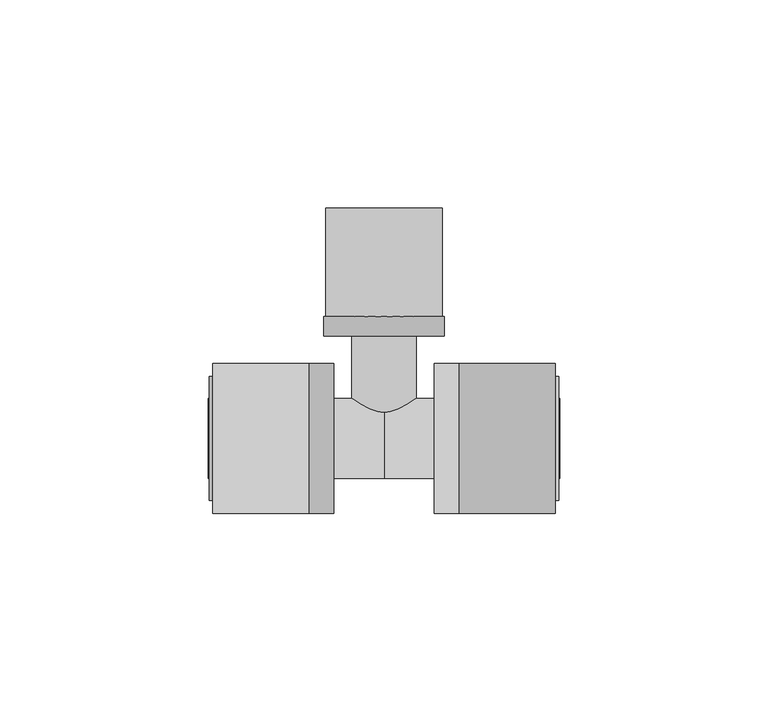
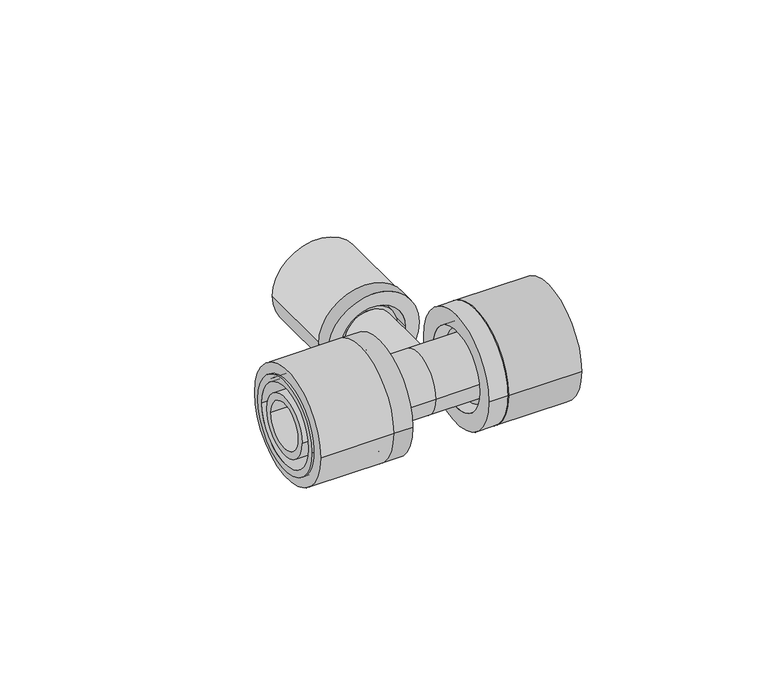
"""IFC4 building model written with IfcOpenShell, lengths in millimetres: pipe fitting geometry, FASTLOC_T-piece_EX+ : FSL T-Piece EX+ AT."""

from ifc_helpers import new_model, si_unit, point, frame, origin, origin_2d, place, context, project, spatial, polyline, circle_curve, trimmed, segment, composite_curve, outline, extrude, source, transform, mapped, element, save
from ifc_brep_helpers import plane_surface, cylinder_surface, revolved_surface, advanced_brep


def pipe_fitting_d1a48cca(model_context):
    return source(origin(), model_context, "Body", "SolidModel", [
        extrude(outline(composite_curve([segment(trimmed(circle_curve(origin_2d(), 18.0), [point((-18.0, 0.0))], [point((18.0, 0.0))], False, "CARTESIAN"), True, "CONTINUOUS"), segment(trimmed(circle_curve(origin_2d(), 18.0), [point((18.0, 0.0))], [point((-18.0, 0.0))], False, "CARTESIAN"), True, "CONTINUOUS")], self_intersect=False), holes=[composite_curve([segment(trimmed(circle_curve(origin_2d(), 13.5), [point((-13.5, 0.0))], [point((13.5, 0.0))], True, "CARTESIAN"), True, "CONTINUOUS"), segment(trimmed(circle_curve(origin_2d(), 13.5), [point((13.5, 0.0))], [point((-13.5, 0.0))], True, "CARTESIAN"), True, "CONTINUOUS")], self_intersect=False)]), frame((18.1, 0.0, 0.0), z_axis=(1.0, 0.0, 0.0), x_axis=(0.0, 1.0, 0.0)), (0.0, 0.0, 1.0), 23.0),
        advanced_brep(
        [(18.1, 18.0, 0.0), (18.1, -18.0, 0.0), (12.1, -18.0, 0.0), (12.1, 18.0, 0.0), (41.9, 14.85, 0.0), (41.9, -14.85, 0.0), (18.1, -14.85, 0.0), (18.1, 14.85, 0.0), (12.1, 12.65, 0.0), (12.1, -12.65, 0.0), (41.9, -12.65, 0.0), (41.9, 12.65, 0.0)],
        [
            (0, 1, circle_curve(frame((18.1, 0.0, 0.0), z_axis=(-1.0, 0.0, 0.0), x_axis=(0.0, -1.0, 0.0)), 18.0)),
            (1, 2),
            (2, 3, circle_curve(frame((12.1, 0.0, 0.0), z_axis=(1.0, 0.0, 0.0), x_axis=(0.0, -1.0, 0.0)), 18.0)),
            (3, 0),
            (4, 5, circle_curve(frame((41.9, 0.0, 0.0), z_axis=(-1.0, 0.0, 0.0), x_axis=(0.0, -1.0, 0.0)), 14.85)),
            (5, 6),
            (6, 7, circle_curve(frame((18.1, 0.0, 0.0), z_axis=(1.0, 0.0, 0.0), x_axis=(0.0, -1.0, 0.0)), 14.85)),
            (7, 4),
            (8, 9, circle_curve(frame((12.1, 0.0, 0.0), z_axis=(-1.0, 0.0, 0.0), x_axis=(0.0, -1.0, 0.0)), 12.65)),
            (9, 10),
            (10, 11, circle_curve(frame((41.9, 0.0, 0.0), z_axis=(1.0, 0.0, 0.0), x_axis=(0.0, -1.0, 0.0)), 12.65)),
            (11, 8),
            (1, 0, circle_curve(frame((18.1, 0.0, 0.0), z_axis=(-1.0, 0.0, 0.0), x_axis=(0.0, 1.0, 0.0)), 18.0)),
            (3, 2, circle_curve(frame((12.1, 0.0, 0.0), z_axis=(1.0, 0.0, 0.0), x_axis=(0.0, 1.0, 0.0)), 18.0)),
            (6, 7, circle_curve(frame((18.1, 0.0, 0.0), z_axis=(-1.0, 0.0, 0.0), x_axis=(0.0, 1.0, 0.0)), 14.85)),
            (5, 4, circle_curve(frame((41.9, 0.0, 0.0), z_axis=(-1.0, 0.0, 0.0), x_axis=(0.0, 1.0, 0.0)), 14.85)),
            (10, 11, circle_curve(frame((41.9, 0.0, 0.0), z_axis=(-1.0, 0.0, 0.0), x_axis=(0.0, 1.0, 0.0)), 12.65)),
            (9, 8, circle_curve(frame((12.1, 0.0, 0.0), z_axis=(-1.0, 0.0, 0.0), x_axis=(0.0, 1.0, 0.0)), 12.65)),
        ],
        [
            cylinder_surface(frame((12.1, 0.0, 0.0), z_axis=(1.0, 0.0, 0.0), x_axis=(0.0, -1.0, 0.0)), 18.0),
            cylinder_surface(frame((12.1, 0.0, 0.0), z_axis=(1.0, 0.0, 0.0), x_axis=(0.0, -1.0, 0.0)), 14.85),
            revolved_surface(polyline([(41.9, -12.65, 0.0), (12.1, -12.65, 0.0)]), (12.1, 0.0, 0.0), (1.0, 0.0, 0.0)),
            cylinder_surface(frame((12.1, 0.0, 0.0), z_axis=(1.0, 0.0, 0.0), x_axis=(0.0, 1.0, 0.0)), 18.0),
            plane_surface(frame((18.1, 0.0, 0.0), z_axis=(1.0, 0.0, 0.0), x_axis=(0.0, 1.0, 0.0))),
            cylinder_surface(frame((12.1, 0.0, 0.0), z_axis=(1.0, 0.0, 0.0), x_axis=(0.0, 1.0, 0.0)), 14.85),
            plane_surface(frame((41.9, 0.0, 0.0), z_axis=(1.0, 0.0, 0.0), x_axis=(0.0, 1.0, 0.0))),
            revolved_surface(polyline([(41.9, 12.65, 0.0), (12.1, 12.65, 0.0)]), (12.1, 0.0, 0.0), (1.0, 0.0, 0.0)),
            plane_surface(frame((12.1, 0.0, 0.0), z_axis=(-1.0, 0.0, 0.0), x_axis=(0.0, 1.0, 0.0))),
        ],
        [
            (0, [[1, 2, 3, 4]]),
            (1, [[5, 6, 7, 8]]),
            (2, [[9, 10, 11, 12]]),
            (3, [[13, -4, 14, -2]]),
            (4, [[-13, -1], [15, -7]]),
            (5, [[16, -8, -15, -6]]),
            (6, [[-16, -5], [17, -11]]),
            (7, [[18, -12, -17, -10]]),
            (8, [[-14, -3], [-18, -9]]),
        ],
    ),
        extrude(outline(composite_curve([segment(trimmed(circle_curve(origin_2d(), 18.0), [point((18.0, 0.0))], [point((-18.0, 0.0))], False, "CARTESIAN"), True, "CONTINUOUS"), segment(trimmed(circle_curve(origin_2d(), 18.0), [point((-18.0, 0.0))], [point((18.0, 0.0))], False, "CARTESIAN"), True, "CONTINUOUS")], self_intersect=False), holes=[composite_curve([segment(trimmed(circle_curve(origin_2d(), 13.5), [point((13.5, 0.0))], [point((-13.5, 0.0))], True, "CARTESIAN"), True, "CONTINUOUS"), segment(trimmed(circle_curve(origin_2d(), 13.5), [point((-13.5, 0.0))], [point((13.5, 0.0))], True, "CARTESIAN"), True, "CONTINUOUS")], self_intersect=False)]), frame((-41.1, 0.0, 0.0), z_axis=(1.0, 0.0, 0.0), x_axis=(0.0, 1.0, 0.0)), (0.0, 0.0, 1.0), 23.0),
        advanced_brep(
        [(-18.1, -18.0, 0.0), (-18.1, 18.0, 0.0), (-12.1, 18.0, 0.0), (-12.1, -18.0, 0.0), (-41.9, -14.85, 0.0), (-41.9, 14.85, 0.0), (-18.1, 14.85, 0.0), (-18.1, -14.85, 0.0), (-12.1, -12.65, 0.0), (-12.1, 12.65, 0.0), (-41.9, 12.65, 0.0), (-41.9, -12.65, 0.0)],
        [
            (0, 1, circle_curve(frame((-18.1, 0.0, 0.0), z_axis=(1.0, 0.0, 0.0), x_axis=(0.0, 1.0, 0.0)), 18.0)),
            (1, 2),
            (2, 3, circle_curve(frame((-12.1, 0.0, 0.0), z_axis=(-1.0, 0.0, 0.0), x_axis=(0.0, 1.0, 0.0)), 18.0)),
            (3, 0),
            (4, 5, circle_curve(frame((-41.9, 0.0, 0.0), z_axis=(1.0, 0.0, 0.0), x_axis=(0.0, 1.0, 0.0)), 14.85)),
            (5, 6),
            (6, 7, circle_curve(frame((-18.1, 0.0, 0.0), z_axis=(-1.0, 0.0, 0.0), x_axis=(0.0, 1.0, 0.0)), 14.85)),
            (7, 4),
            (8, 9, circle_curve(frame((-12.1, 0.0, 0.0), z_axis=(1.0, 0.0, 0.0), x_axis=(0.0, 1.0, 0.0)), 12.65)),
            (9, 10),
            (10, 11, circle_curve(frame((-41.9, 0.0, 0.0), z_axis=(-1.0, 0.0, 0.0), x_axis=(0.0, 1.0, 0.0)), 12.65)),
            (11, 8),
            (1, 0, circle_curve(frame((-18.1, 0.0, 0.0), z_axis=(1.0, 0.0, 0.0), x_axis=(0.0, -1.0, 0.0)), 18.0)),
            (3, 2, circle_curve(frame((-12.1, 0.0, 0.0), z_axis=(-1.0, 0.0, 0.0), x_axis=(0.0, -1.0, 0.0)), 18.0)),
            (6, 7, circle_curve(frame((-18.1, 0.0, 0.0), z_axis=(1.0, 0.0, 0.0), x_axis=(0.0, -1.0, 0.0)), 14.85)),
            (5, 4, circle_curve(frame((-41.9, 0.0, 0.0), z_axis=(1.0, 0.0, 0.0), x_axis=(0.0, -1.0, 0.0)), 14.85)),
            (10, 11, circle_curve(frame((-41.9, 0.0, 0.0), z_axis=(1.0, 0.0, 0.0), x_axis=(0.0, -1.0, 0.0)), 12.65)),
            (9, 8, circle_curve(frame((-12.1, 0.0, 0.0), z_axis=(1.0, 0.0, 0.0), x_axis=(0.0, -1.0, 0.0)), 12.65)),
        ],
        [
            cylinder_surface(frame((-12.1, 0.0, 0.0), z_axis=(-1.0, 0.0, 0.0), x_axis=(0.0, 1.0, 0.0)), 18.0),
            cylinder_surface(frame((-12.1, 0.0, 0.0), z_axis=(-1.0, 0.0, 0.0), x_axis=(0.0, 1.0, 0.0)), 14.85),
            revolved_surface(polyline([(-41.9, 12.65, 0.0), (-12.1, 12.65, 0.0)]), (-12.1, 0.0, 0.0), (-1.0, 0.0, 0.0)),
            cylinder_surface(frame((-12.1, 0.0, 0.0), z_axis=(-1.0, 0.0, 0.0), x_axis=(0.0, -1.0, 0.0)), 18.0),
            plane_surface(frame((-18.1, 0.0, 0.0), z_axis=(-1.0, 0.0, 0.0), x_axis=(0.0, -1.0, 0.0))),
            cylinder_surface(frame((-12.1, 0.0, 0.0), z_axis=(-1.0, 0.0, 0.0), x_axis=(0.0, -1.0, 0.0)), 14.85),
            plane_surface(frame((-41.9, 0.0, 0.0), z_axis=(-1.0, 0.0, 0.0), x_axis=(0.0, -1.0, 0.0))),
            revolved_surface(polyline([(-41.9, -12.65, 0.0), (-12.1, -12.65, 0.0)]), (-12.1, 0.0, 0.0), (-1.0, 0.0, 0.0)),
            plane_surface(frame((-12.1, 0.0, 0.0), z_axis=(1.0, 0.0, 0.0), x_axis=(0.0, -1.0, 0.0))),
        ],
        [
            (0, [[1, 2, 3, 4]]),
            (1, [[5, 6, 7, 8]]),
            (2, [[9, 10, 11, 12]]),
            (3, [[13, -4, 14, -2]]),
            (4, [[-13, -1], [15, -7]]),
            (5, [[16, -8, -15, -6]]),
            (6, [[-16, -5], [17, -11]]),
            (7, [[18, -12, -17, -10]]),
            (8, [[-14, -3], [-18, -9]]),
        ],
    ),
        extrude(outline(composite_curve([segment(trimmed(circle_curve(origin_2d(), 14.0), [point((0.0, 14.0))], [point((0.0, -14.0))], False, "CARTESIAN"), True, "CONTINUOUS"), segment(trimmed(circle_curve(origin_2d(), 14.0), [point((0.0, -14.0))], [point((0.0, 14.0))], False, "CARTESIAN"), True, "CONTINUOUS")], self_intersect=False), holes=[composite_curve([segment(trimmed(circle_curve(origin_2d(), 10.7), [point((0.0, 10.7))], [point((0.0, -10.7))], True, "CARTESIAN"), True, "CONTINUOUS"), segment(trimmed(circle_curve(origin_2d(), 10.7), [point((0.0, -10.7))], [point((0.0, 10.7))], True, "CARTESIAN"), True, "CONTINUOUS")], self_intersect=False)]), frame((0.0, 29.2, 0.0), z_axis=(0.0, 1.0, 0.0), x_axis=(0.0, 0.0, 1.0)), (0.0, 0.0, 1.0), 26.0),
        advanced_brep(
        [(-14.5, 29.2, 0.0), (14.5, 29.2, 0.0), (14.5, 24.5, 0.0), (-14.5, 24.5, 0.0), (-11.85, 46.2, 0.0), (11.85, 46.2, 0.0), (11.85, 29.2, 0.0), (-11.85, 29.2, 0.0), (-10.15, 24.5, 0.0), (10.15, 24.5, 0.0), (10.15, 46.2, 0.0), (-10.15, 46.2, 0.0)],
        [
            (0, 1, circle_curve(frame((0.0, 29.2, 0.0), z_axis=(0.0, -1.0, 0.0), x_axis=(1.0, 0.0, 0.0)), 14.5)),
            (1, 2),
            (2, 3, circle_curve(frame((0.0, 24.5, 0.0), z_axis=(0.0, 1.0, 0.0), x_axis=(1.0, 0.0, 0.0)), 14.5)),
            (3, 0),
            (4, 5, circle_curve(frame((0.0, 46.2, 0.0), z_axis=(0.0, -1.0, 0.0), x_axis=(1.0, 0.0, 0.0)), 11.85)),
            (5, 6),
            (6, 7, circle_curve(frame((0.0, 29.2, 0.0), z_axis=(0.0, 1.0, 0.0), x_axis=(1.0, 0.0, 0.0)), 11.85)),
            (7, 4),
            (8, 9, circle_curve(frame((0.0, 24.5, 0.0), z_axis=(0.0, -1.0, 0.0), x_axis=(1.0, 0.0, 0.0)), 10.15)),
            (9, 10),
            (10, 11, circle_curve(frame((0.0, 46.2, 0.0), z_axis=(0.0, 1.0, 0.0), x_axis=(1.0, 0.0, 0.0)), 10.15)),
            (11, 8),
            (1, 0, circle_curve(frame((0.0, 29.2, 0.0), z_axis=(0.0, -1.0, 0.0), x_axis=(-1.0, 0.0, 0.0)), 14.5)),
            (3, 2, circle_curve(frame((0.0, 24.5, 0.0), z_axis=(0.0, 1.0, 0.0), x_axis=(-1.0, 0.0, 0.0)), 14.5)),
            (6, 7, circle_curve(frame((0.0, 29.2, 0.0), z_axis=(0.0, -1.0, 0.0), x_axis=(-1.0, 0.0, 0.0)), 11.85)),
            (5, 4, circle_curve(frame((0.0, 46.2, 0.0), z_axis=(0.0, -1.0, 0.0), x_axis=(-1.0, 0.0, 0.0)), 11.85)),
            (10, 11, circle_curve(frame((0.0, 46.2, 0.0), z_axis=(0.0, -1.0, 0.0), x_axis=(-1.0, 0.0, 0.0)), 10.15)),
            (9, 8, circle_curve(frame((0.0, 24.5, 0.0), z_axis=(0.0, -1.0, 0.0), x_axis=(-1.0, 0.0, 0.0)), 10.15)),
        ],
        [
            cylinder_surface(frame((0.0, 24.5, 0.0), z_axis=(0.0, 1.0, 0.0), x_axis=(1.0, 0.0, 0.0)), 14.5),
            cylinder_surface(frame((0.0, 24.5, 0.0), z_axis=(0.0, 1.0, 0.0), x_axis=(1.0, 0.0, 0.0)), 11.85),
            revolved_surface(polyline([(10.15, 46.2, 0.0), (10.15, 24.5, 0.0)]), (0.0, 24.5, 0.0), (0.0, 1.0, 0.0)),
            cylinder_surface(frame((0.0, 24.5, 0.0), z_axis=(0.0, 1.0, 0.0), x_axis=(-1.0, 0.0, 0.0)), 14.5),
            plane_surface(frame((0.0, 29.2, 0.0), z_axis=(0.0, 1.0, 0.0), x_axis=(-1.0, 0.0, 0.0))),
            cylinder_surface(frame((0.0, 24.5, 0.0), z_axis=(0.0, 1.0, 0.0), x_axis=(-1.0, 0.0, 0.0)), 11.85),
            plane_surface(frame((0.0, 46.2, 0.0), z_axis=(0.0, 1.0, 0.0), x_axis=(-1.0, 0.0, 0.0))),
            revolved_surface(polyline([(-10.15, 46.2, 0.0), (-10.15, 24.5, 0.0)]), (0.0, 24.5, 0.0), (0.0, 1.0, 0.0)),
            plane_surface(frame((0.0, 24.5, 0.0), z_axis=(0.0, -1.0, 0.0), x_axis=(-1.0, 0.0, 0.0))),
        ],
        [
            (0, [[1, 2, 3, 4]]),
            (1, [[5, 6, 7, 8]]),
            (2, [[9, 10, 11, 12]]),
            (3, [[13, -4, 14, -2]]),
            (4, [[-13, -1], [15, -7]]),
            (5, [[16, -8, -15, -6]]),
            (6, [[-16, -5], [17, -11]]),
            (7, [[18, -12, -17, -10]]),
            (8, [[-14, -3], [-18, -9]]),
        ],
    ),
        advanced_brep(
        [(0.0, 9.6, 0.0), (0.0, -9.6, 0.0), (-15.3, -9.6, 0.0), (-15.3, 9.6, 0.0), (15.3, 9.6, 0.0), (15.3, -9.6, 0.0), (18.1, 11.1, 0.0), (18.1, -11.1, 0.0), (15.3, -11.1, 0.0), (15.3, 11.1, 0.0), (42.1, 9.6, 0.0), (42.1, -9.6, 0.0), (18.1, -9.6, 0.0), (18.1, 9.6, 0.0), (-42.1, 7.35, 0.0), (-42.1, -7.35, 0.0), (42.1, -7.35, 0.0), (42.1, 7.35, 0.0), (-18.1, 9.6, 0.0), (-18.1, -9.6, 0.0), (-42.1, -9.6, 0.0), (-42.1, 9.6, 0.0), (-15.3, 11.1, 0.0), (-15.3, -11.1, 0.0), (-18.1, -11.1, 0.0), (-18.1, 11.1, 0.0)],
        [
            (0, 1, circle_curve(frame((0.0, 0.0, 0.0), z_axis=(-1.0, 0.0, 0.0), x_axis=(0.0, -1.0, 0.0)), 9.6)),
            (1, 2),
            (2, 3, circle_curve(frame((-15.3, 0.0, 0.0), z_axis=(1.0, 0.0, 0.0), x_axis=(0.0, -1.0, 0.0)), 9.6)),
            (3, 0),
            (4, 5, circle_curve(frame((15.3, 0.0, 0.0), z_axis=(-1.0, 0.0, 0.0), x_axis=(0.0, -1.0, 0.0)), 9.6)),
            (5, 1),
            (0, 4),
            (6, 7, circle_curve(frame((18.1, 0.0, 0.0), z_axis=(-1.0, 0.0, 0.0), x_axis=(0.0, -1.0, 0.0)), 11.1)),
            (7, 8),
            (8, 9, circle_curve(frame((15.3, 0.0, 0.0), z_axis=(1.0, 0.0, 0.0), x_axis=(0.0, -1.0, 0.0)), 11.1)),
            (9, 6),
            (10, 11, circle_curve(frame((42.1, 0.0, 0.0), z_axis=(-1.0, 0.0, 0.0), x_axis=(0.0, -1.0, 0.0)), 9.6)),
            (11, 12),
            (12, 13, circle_curve(frame((18.1, 0.0, 0.0), z_axis=(1.0, 0.0, 0.0), x_axis=(0.0, -1.0, 0.0)), 9.6)),
            (13, 10),
            (14, 15, circle_curve(frame((-42.1, 0.0, 0.0), z_axis=(-1.0, 0.0, 0.0), x_axis=(0.0, -1.0, 0.0)), 7.35)),
            (15, 16),
            (16, 17, circle_curve(frame((42.1, 0.0, 0.0), z_axis=(1.0, 0.0, 0.0), x_axis=(0.0, -1.0, 0.0)), 7.35)),
            (17, 14),
            (18, 19, circle_curve(frame((-18.1, 0.0, 0.0), z_axis=(-1.0, 0.0, 0.0), x_axis=(0.0, -1.0, 0.0)), 9.6)),
            (19, 20),
            (20, 21, circle_curve(frame((-42.1, 0.0, 0.0), z_axis=(1.0, 0.0, 0.0), x_axis=(0.0, -1.0, 0.0)), 9.6)),
            (21, 18),
            (22, 23, circle_curve(frame((-15.3, 0.0, 0.0), z_axis=(-1.0, 0.0, 0.0), x_axis=(0.0, -1.0, 0.0)), 11.1)),
            (23, 24),
            (24, 25, circle_curve(frame((-18.1, 0.0, 0.0), z_axis=(1.0, 0.0, 0.0), x_axis=(0.0, -1.0, 0.0)), 11.1)),
            (25, 22),
            (22, 23, circle_curve(frame((-15.3, 0.0, 0.0), z_axis=(1.0, 0.0, 0.0), x_axis=(0.0, 1.0, 0.0)), 11.1)),
            (2, 3, circle_curve(frame((-15.3, 0.0, 0.0), z_axis=(-1.0, 0.0, 0.0), x_axis=(0.0, 1.0, 0.0)), 9.6)),
            (1, 0, circle_curve(frame((0.0, 0.0, 0.0), z_axis=(-1.0, 0.0, 0.0), x_axis=(0.0, 1.0, 0.0)), 9.6)),
            (5, 4, circle_curve(frame((15.3, 0.0, 0.0), z_axis=(-1.0, 0.0, 0.0), x_axis=(0.0, 1.0, 0.0)), 9.6)),
            (8, 9, circle_curve(frame((15.3, 0.0, 0.0), z_axis=(-1.0, 0.0, 0.0), x_axis=(0.0, 1.0, 0.0)), 11.1)),
            (7, 6, circle_curve(frame((18.1, 0.0, 0.0), z_axis=(-1.0, 0.0, 0.0), x_axis=(0.0, 1.0, 0.0)), 11.1)),
            (12, 13, circle_curve(frame((18.1, 0.0, 0.0), z_axis=(-1.0, 0.0, 0.0), x_axis=(0.0, 1.0, 0.0)), 9.6)),
            (11, 10, circle_curve(frame((42.1, 0.0, 0.0), z_axis=(-1.0, 0.0, 0.0), x_axis=(0.0, 1.0, 0.0)), 9.6)),
            (16, 17, circle_curve(frame((42.1, 0.0, 0.0), z_axis=(-1.0, 0.0, 0.0), x_axis=(0.0, 1.0, 0.0)), 7.35)),
            (15, 14, circle_curve(frame((-42.1, 0.0, 0.0), z_axis=(-1.0, 0.0, 0.0), x_axis=(0.0, 1.0, 0.0)), 7.35)),
            (20, 21, circle_curve(frame((-42.1, 0.0, 0.0), z_axis=(-1.0, 0.0, 0.0), x_axis=(0.0, 1.0, 0.0)), 9.6)),
            (19, 18, circle_curve(frame((-18.1, 0.0, 0.0), z_axis=(-1.0, 0.0, 0.0), x_axis=(0.0, 1.0, 0.0)), 9.6)),
            (24, 25, circle_curve(frame((-18.1, 0.0, 0.0), z_axis=(-1.0, 0.0, 0.0), x_axis=(0.0, 1.0, 0.0)), 11.1)),
        ],
        [
            cylinder_surface(frame((0.0, 0.0, 0.0), z_axis=(1.0, 0.0, 0.0), x_axis=(0.0, -1.0, 0.0)), 9.6),
            cylinder_surface(frame((0.0, 0.0, 0.0), z_axis=(1.0, 0.0, 0.0), x_axis=(0.0, -1.0, 0.0)), 11.1),
            revolved_surface(polyline([(42.1, -7.35, 0.0), (-42.1, -7.35, 0.0)]), (0.0, 0.0, 0.0), (1.0, 0.0, 0.0)),
            plane_surface(frame((-15.3, 0.0, 0.0), z_axis=(1.0, 0.0, 0.0), x_axis=(0.0, 1.0, 0.0))),
            cylinder_surface(frame((0.0, 0.0, 0.0), z_axis=(1.0, 0.0, 0.0), x_axis=(0.0, 1.0, 0.0)), 9.6),
            plane_surface(frame((15.3, 0.0, 0.0), z_axis=(-1.0, 0.0, 0.0), x_axis=(0.0, 1.0, 0.0))),
            cylinder_surface(frame((0.0, 0.0, 0.0), z_axis=(1.0, 0.0, 0.0), x_axis=(0.0, 1.0, 0.0)), 11.1),
            plane_surface(frame((18.1, 0.0, 0.0), z_axis=(1.0, 0.0, 0.0), x_axis=(0.0, 1.0, 0.0))),
            plane_surface(frame((42.1, 0.0, 0.0), z_axis=(1.0, 0.0, 0.0), x_axis=(0.0, 1.0, 0.0))),
            revolved_surface(polyline([(42.1, 7.35, 0.0), (-42.1, 7.35, 0.0)]), (0.0, 0.0, 0.0), (1.0, 0.0, 0.0)),
            plane_surface(frame((-42.1, 0.0, 0.0), z_axis=(-1.0, 0.0, 0.0), x_axis=(0.0, 1.0, 0.0))),
            plane_surface(frame((-18.1, 0.0, 0.0), z_axis=(-1.0, 0.0, 0.0), x_axis=(0.0, 1.0, 0.0))),
        ],
        [
            (0, [[1, 2, 3, 4]]),
            (0, [[5, 6, -1, 7]]),
            (1, [[8, 9, 10, 11]]),
            (0, [[12, 13, 14, 15]]),
            (2, [[16, 17, 18, 19]]),
            (0, [[20, 21, 22, 23]]),
            (1, [[24, 25, 26, 27]]),
            (3, [[28, -24], [29, -3]]),
            (4, [[30, -4, -29, -2]]),
            (4, [[31, -7, -30, -6]]),
            (5, [[32, -10], [-31, -5]]),
            (6, [[33, -11, -32, -9]]),
            (7, [[-33, -8], [34, -14]]),
            (4, [[35, -15, -34, -13]]),
            (8, [[-35, -12], [36, -18]]),
            (9, [[37, -19, -36, -17]]),
            (10, [[38, -22], [-37, -16]]),
            (4, [[39, -23, -38, -21]]),
            (11, [[40, -26], [-39, -20]]),
            (6, [[-28, -27, -40, -25]]),
        ],
    ),
        advanced_brep(
        [(5.75, 46.6, 0.0), (-5.75, 46.6, 0.0), (-5.75, 0.0, 0.0), (5.75, 0.0, 0.0), (7.75, 0.0, 0.0), (-7.75, 0.0, 0.0), (-7.75, 26.53, 0.0), (7.75, 26.53, 0.0), (8.8, 26.53, 0.0), (-8.8, 26.53, 0.0), (-8.8, 29.2, 0.0), (8.8, 29.2, 0.0), (7.75, 29.2, 0.0), (-7.75, 29.2, 0.0), (-7.75, 46.6, 0.0), (7.75, 46.6, 0.0)],
        [
            (0, 1, circle_curve(frame((0.0, 46.6, 0.0), z_axis=(0.0, 1.0, 0.0), x_axis=(-1.0, 0.0, 0.0)), 5.75)),
            (1, 2),
            (2, 3, circle_curve(frame((0.0, 0.0, 0.0), z_axis=(0.0, -1.0, 0.0), x_axis=(-1.0, 0.0, 0.0)), 5.75)),
            (3, 0),
            (4, 5, circle_curve(frame((0.0, 0.0, 0.0), z_axis=(0.0, 1.0, 0.0), x_axis=(-1.0, 0.0, 0.0)), 7.75)),
            (5, 6),
            (6, 7, circle_curve(frame((0.0, 26.53, 0.0), z_axis=(0.0, -1.0, 0.0), x_axis=(-1.0, 0.0, 0.0)), 7.75)),
            (7, 4),
            (8, 9, circle_curve(frame((0.0, 26.53, 0.0), z_axis=(0.0, 1.0, 0.0), x_axis=(-1.0, 0.0, 0.0)), 8.8)),
            (9, 10),
            (10, 11, circle_curve(frame((0.0, 29.2, 0.0), z_axis=(0.0, -1.0, 0.0), x_axis=(-1.0, 0.0, 0.0)), 8.8)),
            (11, 8),
            (12, 13, circle_curve(frame((0.0, 29.2, 0.0), z_axis=(0.0, 1.0, 0.0), x_axis=(-1.0, 0.0, 0.0)), 7.75)),
            (13, 14),
            (14, 15, circle_curve(frame((0.0, 46.6, 0.0), z_axis=(0.0, -1.0, 0.0), x_axis=(-1.0, 0.0, 0.0)), 7.75)),
            (15, 12),
            (1, 0, circle_curve(frame((0.0, 46.6, 0.0), z_axis=(0.0, 1.0, 0.0), x_axis=(1.0, 0.0, 0.0)), 5.75)),
            (3, 2, circle_curve(frame((0.0, 0.0, 0.0), z_axis=(0.0, -1.0, 0.0), x_axis=(1.0, 0.0, 0.0)), 5.75)),
            (4, 5, circle_curve(frame((0.0, 0.0, 0.0), z_axis=(0.0, -1.0, 0.0), x_axis=(1.0, 0.0, 0.0)), 7.75)),
            (7, 6, circle_curve(frame((0.0, 26.53, 0.0), z_axis=(0.0, -1.0, 0.0), x_axis=(1.0, 0.0, 0.0)), 7.75)),
            (8, 9, circle_curve(frame((0.0, 26.53, 0.0), z_axis=(0.0, -1.0, 0.0), x_axis=(1.0, 0.0, 0.0)), 8.8)),
            (11, 10, circle_curve(frame((0.0, 29.2, 0.0), z_axis=(0.0, -1.0, 0.0), x_axis=(1.0, 0.0, 0.0)), 8.8)),
            (12, 13, circle_curve(frame((0.0, 29.2, 0.0), z_axis=(0.0, -1.0, 0.0), x_axis=(1.0, 0.0, 0.0)), 7.75)),
            (15, 14, circle_curve(frame((0.0, 46.6, 0.0), z_axis=(0.0, -1.0, 0.0), x_axis=(1.0, 0.0, 0.0)), 7.75)),
        ],
        [
            revolved_surface(polyline([(-5.75, 0.0, 0.0), (-5.75, 46.6, 0.0)]), (0.0, 0.0, 0.0), (0.0, -1.0, 0.0)),
            cylinder_surface(frame((0.0, 0.0, 0.0), z_axis=(0.0, -1.0, 0.0), x_axis=(-1.0, 0.0, 0.0)), 7.75),
            cylinder_surface(frame((0.0, 0.0, 0.0), z_axis=(0.0, -1.0, 0.0), x_axis=(-1.0, 0.0, 0.0)), 8.8),
            revolved_surface(polyline([(5.75, 0.0, 0.0), (5.75, 46.6, 0.0)]), (0.0, 0.0, 0.0), (0.0, -1.0, 0.0)),
            plane_surface(frame((0.0, 0.0, 0.0), z_axis=(0.0, -1.0, 0.0), x_axis=(1.0, 0.0, 0.0))),
            cylinder_surface(frame((0.0, 0.0, 0.0), z_axis=(0.0, -1.0, 0.0), x_axis=(1.0, 0.0, 0.0)), 7.75),
            plane_surface(frame((0.0, 26.53, 0.0), z_axis=(0.0, -1.0, 0.0), x_axis=(1.0, 0.0, 0.0))),
            cylinder_surface(frame((0.0, 0.0, 0.0), z_axis=(0.0, -1.0, 0.0), x_axis=(1.0, 0.0, 0.0)), 8.8),
            plane_surface(frame((0.0, 29.2, 0.0), z_axis=(0.0, 1.0, 0.0), x_axis=(1.0, 0.0, 0.0))),
            plane_surface(frame((0.0, 46.6, 0.0), z_axis=(0.0, 1.0, 0.0), x_axis=(1.0, 0.0, 0.0))),
        ],
        [
            (0, [[1, 2, 3, 4]]),
            (1, [[5, 6, 7, 8]]),
            (2, [[9, 10, 11, 12]]),
            (1, [[13, 14, 15, 16]]),
            (3, [[17, -4, 18, -2]]),
            (4, [[19, -5], [-18, -3]]),
            (5, [[-19, -8, 20, -6]]),
            (6, [[21, -9], [-20, -7]]),
            (7, [[-21, -12, 22, -10]]),
            (8, [[-22, -11], [23, -13]]),
            (5, [[-23, -16, 24, -14]]),
            (9, [[-24, -15], [-17, -1]]),
        ],
    ),
    ])


if __name__ == "__main__":
    model = new_model("IFC4")
    model_context = context("Model", 3, world=origin())
    ifc_project = project(units=[si_unit("LENGTHUNIT", "METRE", prefix="MILLI")], contexts=[model_context])
    site = spatial("IfcSite", under=ifc_project)
    building = spatial("IfcBuilding", under=site)
    placement = place(None, origin())
    pipe_fitting_shape = pipe_fitting_d1a48cca(model_context)
    element("IfcPipeFitting", 1, ObjectType="FASTLOC_T-piece_EX+ : FSL T-Piece EX+ AT", at=placement, inside=building, context=model_context, shape_type="MappedRepresentation", body=[
        mapped(pipe_fitting_shape, transform((0.0, 0.0, 0.0), x_axis=(1.0, 0.0, 0.0), y_axis=(0.0, 1.0, 0.0), z_axis=(0.0, 0.0, 1.0))),
    ])
    save(model, "model.ifc")
